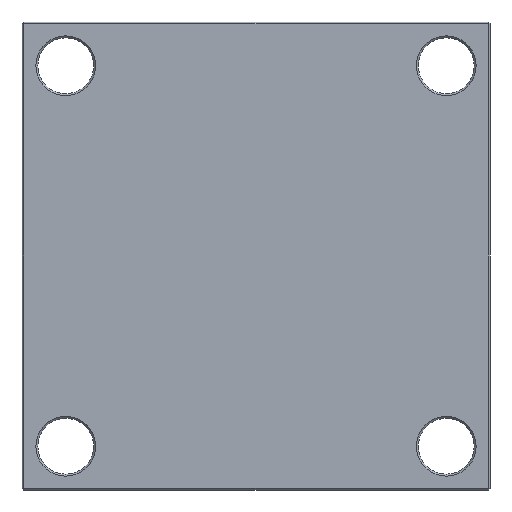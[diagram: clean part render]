
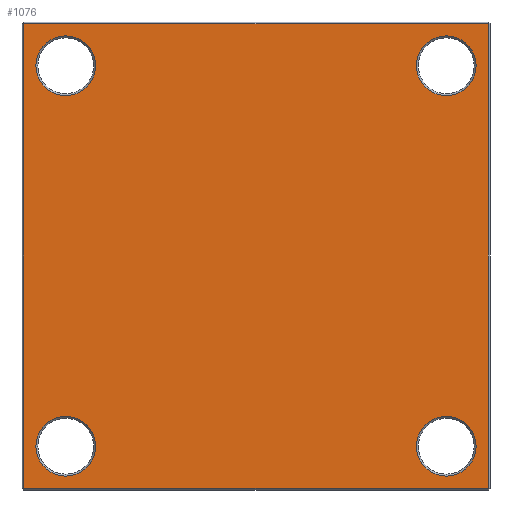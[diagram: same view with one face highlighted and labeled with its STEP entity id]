
A CAD part, front view. The second image highlights one B-rep face of the part: STEP entity #1076.
In plain terms, the highlighted planar face has unit normal (0, -1, 0).
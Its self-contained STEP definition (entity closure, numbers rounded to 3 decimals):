
#27 = EDGE_CURVE ( 'NONE', #219, #1080, #353, .T. ) ;
#46 = DIRECTION ( 'NONE',  ( 0., 1., 0. ) ) ;
#59 = CARTESIAN_POINT ( 'NONE',  ( 122., 0., -122. ) ) ;
#78 = DIRECTION ( 'NONE',  ( 0., 0., -1. ) ) ;
#79 = EDGE_CURVE ( 'NONE', #2110, #285, #308, .T. ) ;
#116 = VERTEX_POINT ( 'NONE', #1878 ) ;
#125 = VERTEX_POINT ( 'NONE', #1761 ) ;
#211 = AXIS2_PLACEMENT_3D ( 'NONE', #1779, #46, #1865 ) ;
#219 = VERTEX_POINT ( 'NONE', #260 ) ;
#225 = CIRCLE ( 'NONE', #2008, 15.7 ) ;
#260 = CARTESIAN_POINT ( 'NONE',  ( 122., 0., 122. ) ) ;
#262 = EDGE_LOOP ( 'NONE', ( #1976, #833 ) ) ;
#285 = VERTEX_POINT ( 'NONE', #1245 ) ;
#308 = CIRCLE ( 'NONE', #562, 15.7 ) ;
#335 = CARTESIAN_POINT ( 'NONE',  ( -100., 0., -100. ) ) ;
#337 = VECTOR ( 'NONE', #1034, 1000. ) ;
#343 = DIRECTION ( 'NONE',  ( 0., 1., 0. ) ) ;
#348 = DIRECTION ( 'NONE',  ( 0., 0., 1. ) ) ;
#353 = LINE ( 'NONE', #770, #1216 ) ;
#388 = LINE ( 'NONE', #1004, #337 ) ;
#411 = FACE_BOUND ( 'NONE', #678, .T. ) ;
#441 = CARTESIAN_POINT ( 'NONE',  ( 100., 0., -100. ) ) ;
#448 = VECTOR ( 'NONE', #658, 1000. ) ;
#449 = DIRECTION ( 'NONE',  ( 0., 1., 0. ) ) ;
#455 = CIRCLE ( 'NONE', #2029, 15.7 ) ;
#475 = CARTESIAN_POINT ( 'NONE',  ( 100., 0., -115.7 ) ) ;
#479 = EDGE_CURVE ( 'NONE', #1080, #125, #1724, .T. ) ;
#516 = DIRECTION ( 'NONE',  ( 0., 0., 1. ) ) ;
#517 = EDGE_CURVE ( 'NONE', #619, #1130, #455, .T. ) ;
#529 = ORIENTED_EDGE ( 'NONE', *, *, #1802, .T. ) ;
#562 = AXIS2_PLACEMENT_3D ( 'NONE', #1503, #1505, #1511 ) ;
#619 = VERTEX_POINT ( 'NONE', #1288 ) ;
#658 = DIRECTION ( 'NONE',  ( 0., 0., 1. ) ) ;
#678 = EDGE_LOOP ( 'NONE', ( #1711, #965 ) ) ;
#705 = DIRECTION ( 'NONE',  ( 0., 0., 1. ) ) ;
#716 = CARTESIAN_POINT ( 'NONE',  ( 122., 0., 0. ) ) ;
#770 = CARTESIAN_POINT ( 'NONE',  ( 0., 0., 122. ) ) ;
#800 = VECTOR ( 'NONE', #78, 1000. ) ;
#833 = ORIENTED_EDGE ( 'NONE', *, *, #865, .T. ) ;
#865 = EDGE_CURVE ( 'NONE', #1524, #1180, #996, .T. ) ;
#885 = DIRECTION ( 'NONE',  ( 0., 1., 0. ) ) ;
#890 = LINE ( 'NONE', #716, #448 ) ;
#903 = EDGE_CURVE ( 'NONE', #285, #2110, #945, .T. ) ;
#908 = EDGE_LOOP ( 'NONE', ( #1074, #1106 ) ) ;
#918 = ORIENTED_EDGE ( 'NONE', *, *, #948, .T. ) ;
#922 = CARTESIAN_POINT ( 'NONE',  ( -100., 0., 100. ) ) ;
#945 = CIRCLE ( 'NONE', #1919, 15.7 ) ;
#947 = ORIENTED_EDGE ( 'NONE', *, *, #1346, .T. ) ;
#948 = EDGE_CURVE ( 'NONE', #125, #1646, #388, .T. ) ;
#958 = DIRECTION ( 'NONE',  ( 0., 1., 0. ) ) ;
#965 = ORIENTED_EDGE ( 'NONE', *, *, #517, .T. ) ;
#976 = EDGE_CURVE ( 'NONE', #1197, #116, #1981, .T. ) ;
#985 = DIRECTION ( 'NONE',  ( 0., 0., 1. ) ) ;
#988 = EDGE_CURVE ( 'NONE', #1180, #1524, #225, .T. ) ;
#996 = CIRCLE ( 'NONE', #1253, 15.7 ) ;
#1004 = CARTESIAN_POINT ( 'NONE',  ( 0., 0., -122. ) ) ;
#1034 = DIRECTION ( 'NONE',  ( 1., 0., 0. ) ) ;
#1041 = PLANE ( 'NONE',  #1065 ) ;
#1065 = AXIS2_PLACEMENT_3D ( 'NONE', #1712, #885, #1716 ) ;
#1074 = ORIENTED_EDGE ( 'NONE', *, *, #903, .T. ) ;
#1076 = ADVANCED_FACE ( 'NONE', ( #1332, #411, #1729, #2151, #1283 ), #1041, .F. ) ;
#1080 = VERTEX_POINT ( 'NONE', #1905 ) ;
#1106 = ORIENTED_EDGE ( 'NONE', *, *, #79, .T. ) ;
#1108 = CARTESIAN_POINT ( 'NONE',  ( 100., 0., 115.7 ) ) ;
#1130 = VERTEX_POINT ( 'NONE', #475 ) ;
#1180 = VERTEX_POINT ( 'NONE', #1327 ) ;
#1197 = VERTEX_POINT ( 'NONE', #1519 ) ;
#1216 = VECTOR ( 'NONE', #1235, 1000. ) ;
#1226 = ORIENTED_EDGE ( 'NONE', *, *, #27, .T. ) ;
#1235 = DIRECTION ( 'NONE',  ( -1., 0., 0. ) ) ;
#1237 = CIRCLE ( 'NONE', #211, 15.7 ) ;
#1245 = CARTESIAN_POINT ( 'NONE',  ( -100., 0., -115.7 ) ) ;
#1253 = AXIS2_PLACEMENT_3D ( 'NONE', #2137, #1664, #705 ) ;
#1283 = FACE_OUTER_BOUND ( 'NONE', #2115, .T. ) ;
#1288 = CARTESIAN_POINT ( 'NONE',  ( 100., 0., -84.3 ) ) ;
#1327 = CARTESIAN_POINT ( 'NONE',  ( 100., 0., 84.3 ) ) ;
#1332 = FACE_BOUND ( 'NONE', #908, .T. ) ;
#1342 = AXIS2_PLACEMENT_3D ( 'NONE', #922, #958, #985 ) ;
#1346 = EDGE_CURVE ( 'NONE', #116, #1197, #1510, .T. ) ;
#1503 = CARTESIAN_POINT ( 'NONE',  ( -100., 0., -100. ) ) ;
#1505 = DIRECTION ( 'NONE',  ( 0., 1., 0. ) ) ;
#1510 = CIRCLE ( 'NONE', #1342, 15.7 ) ;
#1511 = DIRECTION ( 'NONE',  ( 0., 0., 1. ) ) ;
#1519 = CARTESIAN_POINT ( 'NONE',  ( -100., 0., 84.3 ) ) ;
#1524 = VERTEX_POINT ( 'NONE', #1108 ) ;
#1589 = CARTESIAN_POINT ( 'NONE',  ( -100., 0., 100. ) ) ;
#1646 = VERTEX_POINT ( 'NONE', #59 ) ;
#1664 = DIRECTION ( 'NONE',  ( 0., 1., 0. ) ) ;
#1682 = DIRECTION ( 'NONE',  ( 0., 1., 0. ) ) ;
#1688 = DIRECTION ( 'NONE',  ( 0., 0., 1. ) ) ;
#1711 = ORIENTED_EDGE ( 'NONE', *, *, #2175, .T. ) ;
#1712 = CARTESIAN_POINT ( 'NONE',  ( 0., 0., 0. ) ) ;
#1716 = DIRECTION ( 'NONE',  ( 0., 0., 1. ) ) ;
#1724 = LINE ( 'NONE', #2100, #800 ) ;
#1729 = FACE_BOUND ( 'NONE', #262, .T. ) ;
#1756 = ORIENTED_EDGE ( 'NONE', *, *, #976, .T. ) ;
#1761 = CARTESIAN_POINT ( 'NONE',  ( -122., 0., -122. ) ) ;
#1768 = EDGE_LOOP ( 'NONE', ( #1756, #947 ) ) ;
#1779 = CARTESIAN_POINT ( 'NONE',  ( 100., 0., -100. ) ) ;
#1802 = EDGE_CURVE ( 'NONE', #1646, #219, #890, .T. ) ;
#1805 = AXIS2_PLACEMENT_3D ( 'NONE', #1589, #1682, #1688 ) ;
#1847 = CARTESIAN_POINT ( 'NONE',  ( 100., 0., 100. ) ) ;
#1857 = DIRECTION ( 'NONE',  ( 0., 1., 0. ) ) ;
#1865 = DIRECTION ( 'NONE',  ( 0., 0., 1. ) ) ;
#1868 = DIRECTION ( 'NONE',  ( 0., 0., 1. ) ) ;
#1878 = CARTESIAN_POINT ( 'NONE',  ( -100., 0., 115.7 ) ) ;
#1905 = CARTESIAN_POINT ( 'NONE',  ( -122., 0., 122. ) ) ;
#1919 = AXIS2_PLACEMENT_3D ( 'NONE', #335, #343, #348 ) ;
#1957 = CARTESIAN_POINT ( 'NONE',  ( -100., 0., -84.3 ) ) ;
#1976 = ORIENTED_EDGE ( 'NONE', *, *, #988, .T. ) ;
#1981 = CIRCLE ( 'NONE', #1805, 15.7 ) ;
#2008 = AXIS2_PLACEMENT_3D ( 'NONE', #1847, #1857, #1868 ) ;
#2029 = AXIS2_PLACEMENT_3D ( 'NONE', #441, #449, #516 ) ;
#2100 = CARTESIAN_POINT ( 'NONE',  ( -122., 0., 0. ) ) ;
#2109 = ORIENTED_EDGE ( 'NONE', *, *, #479, .T. ) ;
#2110 = VERTEX_POINT ( 'NONE', #1957 ) ;
#2115 = EDGE_LOOP ( 'NONE', ( #529, #1226, #2109, #918 ) ) ;
#2137 = CARTESIAN_POINT ( 'NONE',  ( 100., 0., 100. ) ) ;
#2151 = FACE_BOUND ( 'NONE', #1768, .T. ) ;
#2175 = EDGE_CURVE ( 'NONE', #1130, #619, #1237, .T. ) ;
